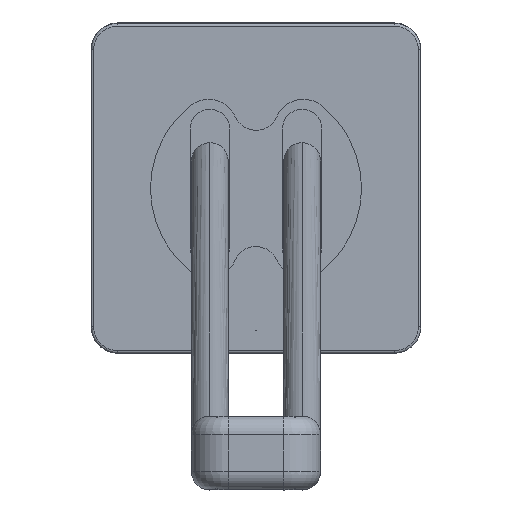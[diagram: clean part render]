
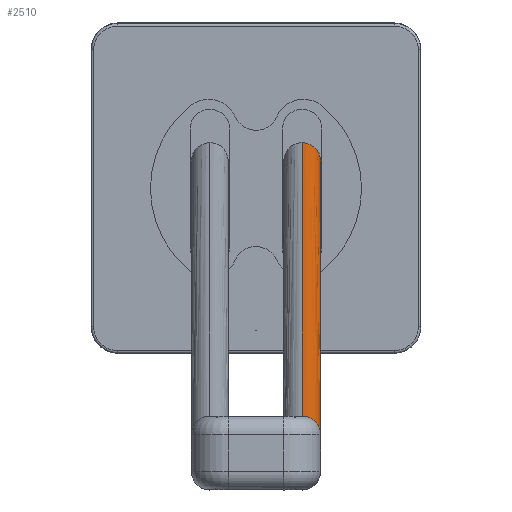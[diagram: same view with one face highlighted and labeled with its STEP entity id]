
A CAD part, left-side view. The second image highlights one B-rep face of the part: STEP entity #2510.
In plain terms, the highlighted free-form (B-spline) face has degree [3, 1] with [4, 2] control points.
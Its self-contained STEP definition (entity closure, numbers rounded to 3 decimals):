
#325 = ORIENTED_EDGE ( 'NONE', *, *, #2234, .T. ) ;
#567 = CARTESIAN_POINT ( 'NONE',  ( 1.004, -23.572, 13.832 ) ) ;
#603 = CARTESIAN_POINT ( 'NONE',  ( 0.938, -17.956, 17.301 ) ) ;
#627 = CARTESIAN_POINT ( 'NONE',  ( 3.392, -17.5, 17.958 ) ) ;
#989 = DIRECTION ( 'NONE',  ( -0.966, 0., -0.259 ) ) ;
#1193 = DIRECTION ( 'NONE',  ( 1., 0., 0. ) ) ;
#1243 = CARTESIAN_POINT ( 'NONE',  ( 0.983, -22.765, 14.948 ) ) ;
#1446 = EDGE_CURVE ( 'NONE', #7846, #1451, #1774, .T. ) ;
#1451 = VERTEX_POINT ( 'NONE', #7817 ) ;
#1774 = LINE ( 'NONE', #3989, #8528 ) ;
#1898 = CARTESIAN_POINT ( 'NONE',  ( 1.071, -24.5, 10.336 ) ) ;
#1920 = CARTESIAN_POINT ( 'NONE',  ( 0.965, -21.765, 15.877 ) ) ;
#1977 = CARTESIAN_POINT ( 'NONE',  ( -385.701, -17.5, -86.299 ) ) ;
#1982 = VECTOR ( 'NONE', #8375, 1000. ) ;
#2095 = CARTESIAN_POINT ( 'NONE',  ( 0.938, -17.5, 17.301 ) ) ;
#2234 = EDGE_CURVE ( 'NONE', #3419, #5356, #3759, .T. ) ;
#2510 = ADVANCED_FACE ( 'NONE', ( #3860 ), #4686, .F. ) ;
#2586 = CARTESIAN_POINT ( 'NONE',  ( 0.955, -20.992, 16.376 ) ) ;
#3235 = CARTESIAN_POINT ( 'NONE',  ( 1.041, -24.32, 11.921 ) ) ;
#3255 = EDGE_CURVE ( 'NONE', #5356, #1451, #5000, .T. ) ;
#3259 = CARTESIAN_POINT ( 'NONE',  ( 0.948, -20.176, 16.783 ) ) ;
#3315 = CARTESIAN_POINT ( 'NONE',  ( -385.701, -21.601, -86.299 ) ) ;
#3419 = VERTEX_POINT ( 'NONE', #2095 ) ;
#3568 = CARTESIAN_POINT ( 'NONE',  ( 1.071, -24.5, 10.336 ) ) ;
#3719 = EDGE_CURVE ( 'NONE', #7846, #3419, #6851, .T. ) ;
#3759 = LINE ( 'NONE', #7678, #1982 ) ;
#3860 = FACE_OUTER_BOUND ( 'NONE', #6514, .T. ) ;
#3901 = ORIENTED_EDGE ( 'NONE', *, *, #3255, .T. ) ;
#3902 = CARTESIAN_POINT ( 'NONE',  ( 1.028, -24.131, 12.58 ) ) ;
#3931 = CARTESIAN_POINT ( 'NONE',  ( 0.942, -19.309, 17.068 ) ) ;
#3974 = CARTESIAN_POINT ( 'NONE',  ( -385.701, -24.5, -89.198 ) ) ;
#3989 = CARTESIAN_POINT ( 'NONE',  ( 24.818, -24.5, 16.699 ) ) ;
#4030 = ORIENTED_EDGE ( 'NONE', *, *, #1446, .F. ) ;
#4338 = AXIS2_PLACEMENT_3D ( 'NONE', #5195, #1193, #5883 ) ;
#4575 = CARTESIAN_POINT ( 'NONE',  ( 1.012, -23.787, 13.432 ) ) ;
#4607 = CARTESIAN_POINT ( 'NONE',  ( 0.938, -18.409, 17.257 ) ) ;
#4653 = CARTESIAN_POINT ( 'NONE',  ( -385.701, -24.5, -93.299 ) ) ;
#4686 =( BOUNDED_SURFACE ( )  B_SPLINE_SURFACE ( 3, 1, ( 
 ( #627, #1977 ),
 ( #7349, #3315 ),
 ( #8019, #3974 ),
 ( #8728, #4653 ) ),
 .UNSPECIFIED., .F., .F., .F. ) 
 B_SPLINE_SURFACE_WITH_KNOTS ( ( 4, 4 ),
 ( 2, 2 ),
 ( 0., 1. ),
 ( 0., 1. ),
 .UNSPECIFIED. ) 
 GEOMETRIC_REPRESENTATION_ITEM ( )  RATIONAL_B_SPLINE_SURFACE ( (
 ( 1., 1.),
 ( 0.805, 0.805),
 ( 0.805, 0.805),
 ( 1., 1.) ) ) 
 REPRESENTATION_ITEM ( '' )  SURFACE ( )  );
#5000 = CIRCLE ( 'NONE', #4338, 7. ) ;
#5195 = CARTESIAN_POINT ( 'NONE',  ( -385.701, -17.5, -93.299 ) ) ;
#5246 = CARTESIAN_POINT ( 'NONE',  ( 0.99, -23.062, 14.59 ) ) ;
#5265 = CARTESIAN_POINT ( 'NONE',  ( 0.938, -17.5, 17.301 ) ) ;
#5356 = VERTEX_POINT ( 'NONE', #7136 ) ;
#5883 = DIRECTION ( 'NONE',  ( 0., 0., 1. ) ) ;
#5929 = CARTESIAN_POINT ( 'NONE',  ( 0.971, -22.118, 15.589 ) ) ;
#6514 = EDGE_LOOP ( 'NONE', ( #8061, #325, #3901, #4030 ) ) ;
#6576 = CARTESIAN_POINT ( 'NONE',  ( 1.063, -24.5, 10.798 ) ) ;
#6610 = CARTESIAN_POINT ( 'NONE',  ( 0.958, -21.191, 16.258 ) ) ;
#6851 = B_SPLINE_CURVE_WITH_KNOTS ( 'NONE', 3,
 ( #1898, #6576, #7273, #3235, #7943, #3902, #8652, #4575, #567, #5246, #1243, #5929, #1920, #6610, #2586, #7296, #3259, #7977, #3931, #8677, #4607, #603, #5265 ),
 .UNSPECIFIED., .F., .F.,
 ( 4, 2, 2, 2, 2, 2, 2, 2, 1, 2, 2, 4 ),
 ( 0., 0.001, 0.002, 0.003, 0.004, 0.005, 0.007, 0.008, 0.008, 0.009, 0.01, 0.011 ),
 .UNSPECIFIED. ) ;
#7136 = CARTESIAN_POINT ( 'NONE',  ( -385.701, -17.5, -86.299 ) ) ;
#7273 = CARTESIAN_POINT ( 'NONE',  ( 1.054, -24.454, 11.251 ) ) ;
#7296 = CARTESIAN_POINT ( 'NONE',  ( 0.951, -20.589, 16.59 ) ) ;
#7349 = CARTESIAN_POINT ( 'NONE',  ( 3.392, -21.601, 17.958 ) ) ;
#7678 = CARTESIAN_POINT ( 'NONE',  ( 24.818, -17.5, 23.699 ) ) ;
#7817 = CARTESIAN_POINT ( 'NONE',  ( -385.701, -24.5, -93.299 ) ) ;
#7846 = VERTEX_POINT ( 'NONE', #3568 ) ;
#7943 = CARTESIAN_POINT ( 'NONE',  ( 1.037, -24.265, 12.142 ) ) ;
#7977 = CARTESIAN_POINT ( 'NONE',  ( 0.945, -19.747, 16.936 ) ) ;
#8019 = CARTESIAN_POINT ( 'NONE',  ( 3.392, -24.5, 15.059 ) ) ;
#8061 = ORIENTED_EDGE ( 'NONE', *, *, #3719, .T. ) ;
#8375 = DIRECTION ( 'NONE',  ( -0.966, 0., -0.259 ) ) ;
#8528 = VECTOR ( 'NONE', #989, 1000. ) ;
#8652 = CARTESIAN_POINT ( 'NONE',  ( 1.024, -24.052, 12.798 ) ) ;
#8677 = CARTESIAN_POINT ( 'NONE',  ( 0.941, -19.085, 17.124 ) ) ;
#8728 = CARTESIAN_POINT ( 'NONE',  ( 3.392, -24.5, 10.958 ) ) ;
